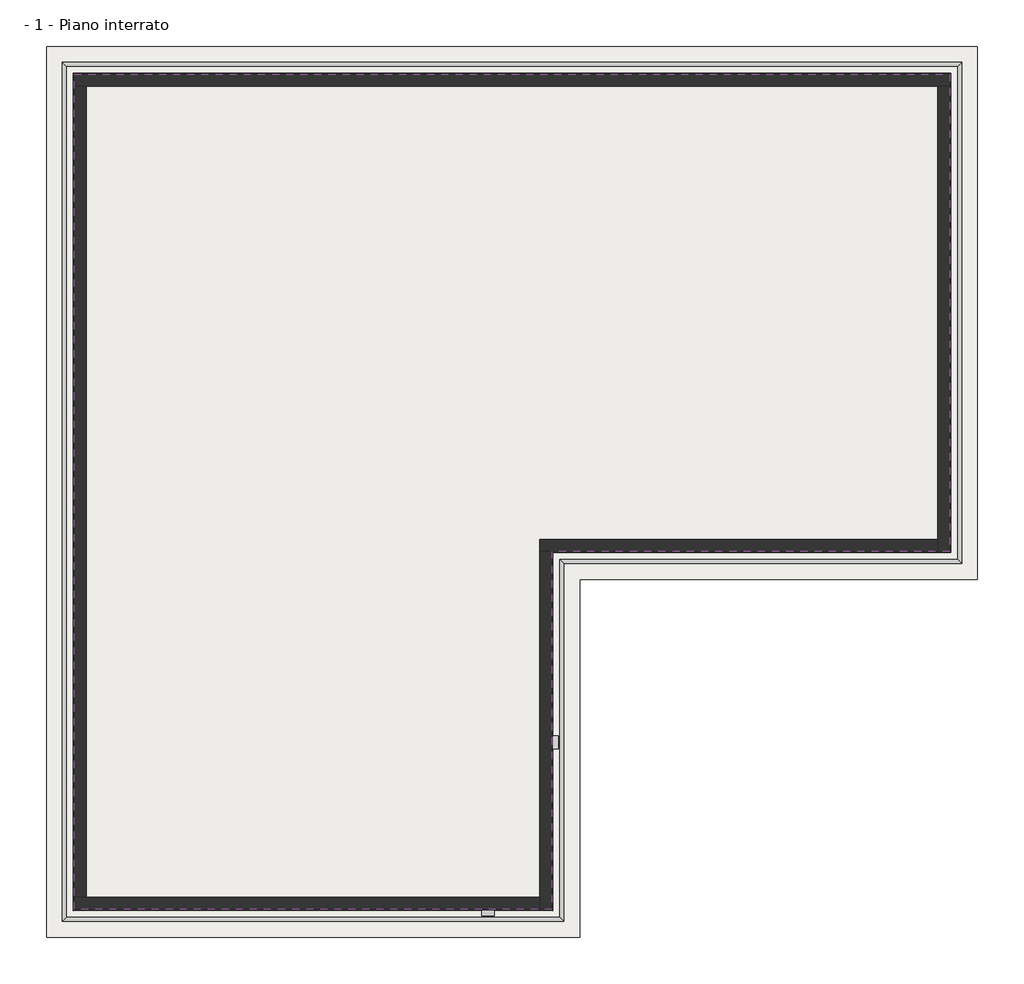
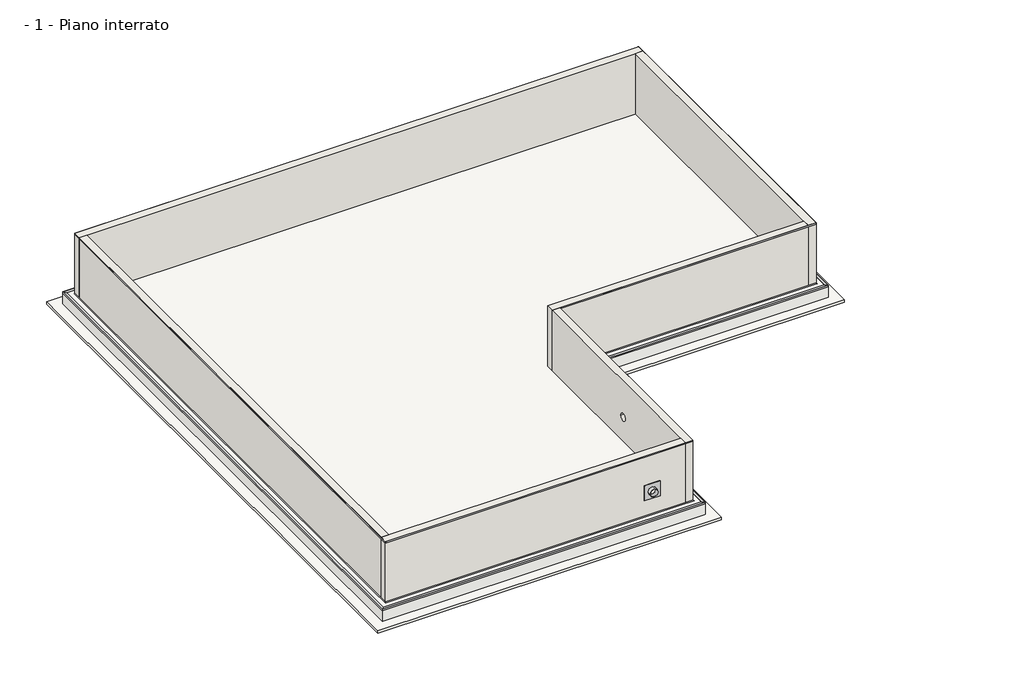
# One storey: 6 proxies, 6 walls, 2 slabs.
"""IFC4 building model written with IfcOpenShell, lengths in millimetres."""

from ifc_helpers import new_model, si_unit, frame, origin, place, context, project, spatial, polyline, circle_curve, outline, extrude, faceted_brep, transform, mapped, element, save
from ifc_brep_helpers import plane_surface, revolved_surface, advanced_brep
from components import generic_models_91e2fdae

model = new_model("IFC4")

# Units and contexts
model_context = context("Model", 3, world=origin())
ifc_project = project(units=[si_unit("LENGTHUNIT", "METRE", prefix="MILLI")], contexts=[model_context])

# Site, building, storey
site = spatial("IfcSite", under=ifc_project)
building = spatial("IfcBuilding", under=site)
storey = spatial("IfcBuildingStorey", under=building, Name="- 1 - Piano interrato", Elevation=-2500.0)

# Proxies
placement = place(None, origin())
element("IfcBuildingElementProxy", 1, Name="SPIDY 15 FILLET", ObjectType="SPIDY 15 FILLET", at=placement, inside=storey, context=model_context, shape_type="Brep", body=[
    faceted_brep([(4132.9665975, 5463.4665779, -2500.0), (4102.9665975, 5493.4665779, -2500.0), (4102.9665975, 5493.4665779, -2470.0), (4132.9665975, -3536.5334221, -2500.0), (4102.9665975, -3506.5334221, -2470.0), (4102.9665975, -3506.5334221, -2500.0)], [[[0, 1, 2]], [[3, 4, 5]], [[1, 0, 3, 5]], [[2, 1, 5, 4]], [[0, 2, 4, 3]]]),
    faceted_brep([(14132.9665975, 17523.4665779, -2500.0), (14102.9665975, 17493.4665779, -2500.0), (14102.9665975, 17493.4665779, -2470.0), (14132.9665975, 5463.4665779, -2500.0), (14102.9665975, 5493.4665779, -2470.0), (14102.9665975, 5493.4665779, -2500.0)], [[[0, 1, 2]], [[3, 4, 5]], [[1, 0, 3, 5]], [[2, 1, 5, 4]], [[0, 2, 4, 3]]]),
    faceted_brep([(14132.9665975, 5463.4665779, -2500.0), (14102.9665975, 5493.4665779, -2500.0), (14102.9665975, 5493.4665779, -2470.0), (4132.9665975, 5463.4665779, -2500.0), (4102.9665975, 5493.4665779, -2470.0), (4102.9665975, 5493.4665779, -2500.0)], [[[0, 1, 2]], [[3, 4, 5]], [[1, 0, 3, 5]], [[2, 1, 5, 4]], [[0, 2, 4, 3]]]),
    faceted_brep([(-7927.0334025, 17523.4665779, -2500.0), (-7897.0334025, 17493.4665779, -2500.0), (-7897.0334025, 17493.4665779, -2470.0), (14132.9665975, 17523.4665779, -2500.0), (14102.9665975, 17493.4665779, -2470.0), (14102.9665975, 17493.4665779, -2500.0)], [[[0, 1, 2]], [[3, 4, 5]], [[1, 0, 3, 5]], [[2, 1, 5, 4]], [[0, 2, 4, 3]]]),
    faceted_brep([(-7927.0334025, -3536.5334221, -2500.0), (-7897.0334025, -3506.5334221, -2500.0), (-7897.0334025, -3506.5334221, -2470.0), (-7927.0334025, 17523.4665779, -2500.0), (-7897.0334025, 17493.4665779, -2470.0), (-7897.0334025, 17493.4665779, -2500.0)], [[[0, 1, 2]], [[3, 4, 5]], [[1, 0, 3, 5]], [[2, 1, 5, 4]], [[0, 2, 4, 3]]]),
    faceted_brep([(4132.9665975, -3536.5334221, -2500.0), (4102.9665975, -3506.5334221, -2500.0), (4102.9665975, -3506.5334221, -2470.0), (-7927.0334025, -3536.5334221, -2500.0), (-7897.0334025, -3506.5334221, -2470.0), (-7897.0334025, -3506.5334221, -2500.0)], [[[0, 1, 2]], [[3, 4, 5]], [[1, 0, 3, 5]], [[2, 1, 5, 4]], [[0, 2, 4, 3]]]),
])
element("IfcBuildingElementProxy", 2, Name="AMPHIBIA VOLTECO PRESSURE LINE", ObjectType="AMPHIBIA VOLTECO PRESSURE LINE", at=placement, inside=storey, context=model_context, shape_type="SweptSolid", body=[
    extrude(outline(polyline([(-7897.0334025, -3506.5334221), (-7898.0334025, -3507.5334221), (-7898.0334025, 17494.4665779), (-7897.0334025, 17493.4665779), (-7897.0334025, -3506.5334221)])), frame((0.0, 0.0, -50.0), z_axis=(0.0, 0.0, 1.0), x_axis=(1.0, 0.0, 0.0)), (0.0, 0.0, 1.0), 50.0),
    extrude(outline(polyline([(4102.9665975, -3506.5334221), (4103.9665975, -3507.5334221), (-7898.0334025, -3507.5334221), (-7897.0334025, -3506.5334221), (4102.9665975, -3506.5334221)])), frame((0.0, 0.0, -50.0), z_axis=(0.0, 0.0, 1.0), x_axis=(1.0, 0.0, 0.0)), (0.0, 0.0, 1.0), 50.0),
    extrude(outline(polyline([(4102.9665975, 5493.4665779), (4103.9665975, 5492.4665779), (4103.9665975, -3507.5334221), (4102.9665975, -3506.5334221), (4102.9665975, 5493.4665779)])), frame((0.0, 0.0, -50.0), z_axis=(0.0, 0.0, 1.0), x_axis=(1.0, 0.0, 0.0)), (0.0, 0.0, 1.0), 50.0),
    extrude(outline(polyline([(14102.9665975, 5493.4665779), (14103.9665975, 5492.4665779), (4103.9665975, 5492.4665779), (4102.9665975, 5493.4665779), (14102.9665975, 5493.4665779)])), frame((0.0, 0.0, -50.0), z_axis=(0.0, 0.0, 1.0), x_axis=(1.0, 0.0, 0.0)), (0.0, 0.0, 1.0), 50.0),
    extrude(outline(polyline([(14102.9665975, 17493.4665779), (14103.9665975, 17494.4665779), (14103.9665975, 5492.4665779), (14102.9665975, 5493.4665779), (14102.9665975, 17493.4665779)])), frame((0.0, 0.0, -50.0), z_axis=(0.0, 0.0, 1.0), x_axis=(1.0, 0.0, 0.0)), (0.0, 0.0, 1.0), 50.0),
    extrude(outline(polyline([(-7897.0334025, 17493.4665779), (-7898.0334025, 17494.4665779), (14103.9665975, 17494.4665779), (14102.9665975, 17493.4665779), (-7897.0334025, 17493.4665779)])), frame((0.0, 0.0, -50.0), z_axis=(0.0, 0.0, 1.0), x_axis=(1.0, 0.0, 0.0)), (0.0, 0.0, 1.0), 50.0),
])
element("IfcBuildingElementProxy", 3, Name="AMPHIBIA CORNER 90° VOLTECO", ObjectType="AMPHIBIA CORNER 90° VOLTECO", at=placement, inside=storey, context=model_context, shape_type="Brep", body=[
    faceted_brep([(14403.9665975, 17794.4665779, -2550.0), (14402.9665975, 17793.4665779, -2550.0), (-8197.0334025, 17793.4665779, -2550.0), (-8198.0334025, 17794.4665779, -2550.0), (14403.9665975, 17794.4665779, -2499.0), (-8198.0334025, 17794.4665779, -2499.0), (14302.9665975, 17693.4665779, -2499.0), (-8097.0334025, 17693.4665779, -2499.0), (14302.9665975, 17693.4665779, -2500.0), (-8097.0334025, 17693.4665779, -2500.0), (14402.9665975, 17793.4665779, -2500.0), (-8197.0334025, 17793.4665779, -2500.0), (-8197.0334025, -3806.5334221, -2550.0), (-8198.0334025, -3807.5334221, -2550.0), (-8198.0334025, -3807.5334221, -2499.0), (-8097.0334025, -3706.5334221, -2499.0), (-8097.0334025, -3706.5334221, -2500.0), (-8197.0334025, -3806.5334221, -2500.0), (4402.9665975, -3806.5334221, -2550.0), (4403.9665975, -3807.5334221, -2550.0), (4403.9665975, -3807.5334221, -2499.0), (4302.9665975, -3706.5334221, -2499.0), (4302.9665975, -3706.5334221, -2500.0), (4402.9665975, -3806.5334221, -2500.0), (4402.9665975, 5193.4665779, -2550.0), (4403.9665975, 5192.4665779, -2550.0), (4403.9665975, 5192.4665779, -2499.0), (4302.9665975, 5293.4665779, -2499.0), (4302.9665975, 5293.4665779, -2500.0), (4402.9665975, 5193.4665779, -2500.0), (14402.9665975, 5193.4665779, -2550.0), (14403.9665975, 5192.4665779, -2550.0), (14403.9665975, 5192.4665779, -2499.0), (14302.9665975, 5293.4665779, -2499.0), (14302.9665975, 5293.4665779, -2500.0), (14402.9665975, 5193.4665779, -2500.0)], [[[0, 1, 2, 3]], [[4, 0, 3, 5]], [[6, 4, 5, 7]], [[8, 6, 7, 9]], [[10, 8, 9, 11]], [[1, 10, 11, 2]], [[3, 2, 12, 13]], [[5, 3, 13, 14]], [[7, 5, 14, 15]], [[9, 7, 15, 16]], [[11, 9, 16, 17]], [[2, 11, 17, 12]], [[13, 12, 18, 19]], [[14, 13, 19, 20]], [[15, 14, 20, 21]], [[16, 15, 21, 22]], [[17, 16, 22, 23]], [[12, 17, 23, 18]], [[19, 18, 24, 25]], [[20, 19, 25, 26]], [[21, 20, 26, 27]], [[22, 21, 27, 28]], [[23, 22, 28, 29]], [[18, 23, 29, 24]], [[25, 24, 30, 31]], [[26, 25, 31, 32]], [[27, 26, 32, 33]], [[28, 27, 33, 34]], [[29, 28, 34, 35]], [[24, 29, 35, 30]], [[1, 0, 31, 30]], [[0, 4, 32, 31]], [[4, 6, 33, 32]], [[6, 8, 34, 33]], [[8, 10, 35, 34]], [[10, 1, 30, 35]]]),
])
element("IfcBuildingElementProxy", 4, Name="WT 102 VOLTECO", ObjectType="WT 102 VOLTECO", at=placement, inside=storey, context=model_context, shape_type="SweptSolid", body=[
    extrude(outline(polyline([(-7737.0334025, 17333.4665779), (-7757.0334025, 17353.4665779), (13962.9665975, 17353.4665779), (13942.9665975, 17333.4665779), (-7737.0334025, 17333.4665779)])), frame((0.0, 0.0, -2500.0), z_axis=(0.0, 0.0, 1.0), x_axis=(1.0, 0.0, 0.0)), (0.0, 0.0, 1.0), 20.0),
    extrude(outline(polyline([(-7737.0334025, -3346.5334221), (-7757.0334025, -3366.5334221), (-7757.0334025, 17353.4665779), (-7737.0334025, 17333.4665779), (-7737.0334025, -3346.5334221)])), frame((0.0, 0.0, -2500.0), z_axis=(0.0, 0.0, 1.0), x_axis=(1.0, 0.0, 0.0)), (0.0, 0.0, 1.0), 20.0),
    extrude(outline(polyline([(3942.9665975, -3346.5334221), (3962.9665975, -3366.5334221), (-7757.0334025, -3366.5334221), (-7737.0334025, -3346.5334221), (3942.9665975, -3346.5334221)])), frame((0.0, 0.0, -2500.0), z_axis=(0.0, 0.0, 1.0), x_axis=(1.0, 0.0, 0.0)), (0.0, 0.0, 1.0), 20.0),
    extrude(outline(polyline([(3942.9665975, 5653.4665779), (3962.9665975, 5633.4665779), (3962.9665975, -3366.5334221), (3942.9665975, -3346.5334221), (3942.9665975, 5653.4665779)])), frame((0.0, 0.0, -2500.0), z_axis=(0.0, 0.0, 1.0), x_axis=(1.0, 0.0, 0.0)), (0.0, 0.0, 1.0), 20.0),
    extrude(outline(polyline([(13942.9665975, 5653.4665779), (13962.9665975, 5633.4665779), (3962.9665975, 5633.4665779), (3942.9665975, 5653.4665779), (13942.9665975, 5653.4665779)])), frame((0.0, 0.0, -2500.0), z_axis=(0.0, 0.0, 1.0), x_axis=(1.0, 0.0, 0.0)), (0.0, 0.0, 1.0), 20.0),
    extrude(outline(polyline([(13942.9665975, 17333.4665779), (13962.9665975, 17353.4665779), (13962.9665975, 5633.4665779), (13942.9665975, 5653.4665779), (13942.9665975, 17333.4665779)])), frame((0.0, 0.0, -2500.0), z_axis=(0.0, 0.0, 1.0), x_axis=(1.0, 0.0, 0.0)), (0.0, 0.0, 1.0), 20.0),
])
generic_models_shape = generic_models_91e2fdae(model_context)
element("IfcBuildingElementProxy", 5, Name="ENG-Volteco_Amphibia Pipe : ENG-Volteco_Amphibia Pipe", ObjectType="ENG-Volteco_Amphibia Pipe : ENG-Volteco_Amphibia Pipe", at=placement, inside=storey, context=model_context, shape_type="MappedRepresentation", body=[
    mapped(generic_models_shape, transform((4102.9665975, 693.4665779, -1500.3520841), x_axis=(0.0, 1.0, 0.0), y_axis=(0.0, 0.0, 1.0), z_axis=(1.0, 0.0, 0.0))),
])
element("IfcBuildingElementProxy", 6, Name="ENG-Volteco_Amphibia Pipe : ENG-Volteco_Amphibia Pipe", ObjectType="ENG-Volteco_Amphibia Pipe : ENG-Volteco_Amphibia Pipe", at=placement, inside=storey, context=model_context, shape_type="MappedRepresentation", body=[
    mapped(generic_models_shape, transform((2502.9665975, -3506.5334221, -1522.2019867), x_axis=(1.0, 0.0, 0.0), y_axis=(0.0, 0.0, 1.0), z_axis=(0.0, -1.0, 0.0))),
])

# Slabs
element("IfcSlab", 7, ObjectType="Blinding concrete - 10 cm", at=placement, inside=storey, context=model_context, shape_type="SweptSolid", body=[
    extrude(outline(polyline([(14802.9665975, 18193.4665779), (14802.9665975, 4793.4665779), (4802.9665975, 4793.4665779), (4802.9665975, -4206.5334221), (-8597.0334025, -4206.5334221), (-8597.0334025, 18193.4665779), (14802.9665975, 18193.4665779)])), frame((0.0, 0.0, -3100.0), z_axis=(0.0, 0.0, 1.0), x_axis=(1.0, 0.0, 0.0)), (0.0, 0.0, 1.0), 100.0),
])
element("IfcSlab", 8, ObjectType="Raft foundation - 50 cm", at=placement, inside=storey, context=model_context, shape_type="Brep", body=[
    faceted_brep([(14402.9665975, 17793.4665779, -3000.0), (14402.9665975, 5193.4665779, -3000.0), (4402.9665975, 5193.4665779, -3000.0), (4402.9665975, -3806.5334221, -3000.0), (-8197.0334025, -3806.5334221, -3000.0), (-8197.0334025, 17793.4665779, -3000.0), (14402.9665975, 17793.4665779, -2500.0), (-8197.0334025, 17793.4665779, -2500.0), (-8197.0334025, -3806.5334221, -2500.0), (4402.9665975, -3806.5334221, -2500.0), (4402.9665975, 5193.4665779, -2500.0), (14402.9665975, 5193.4665779, -2500.0), (14402.9665975, 17793.4665779, -2550.0), (14402.9665975, 5193.4665779, -2550.0), (4402.9665975, 5193.4665779, -2550.0), (4402.9665975, -3806.5334221, -2550.0), (-8197.0334025, -3806.5334221, -2550.0), (-8197.0334025, 17793.4665779, -2550.0)], [[[0, 1, 2, 3, 4, 5]], [[6, 7, 8, 9, 10, 11]], [[1, 0, 12, 6, 11, 13]], [[2, 1, 13, 11, 10, 14]], [[3, 2, 14, 10, 9, 15]], [[4, 3, 15, 9, 8, 16]], [[5, 4, 16, 8, 7, 17]], [[0, 5, 17, 7, 6, 12]]]),
])

# Walls
element("IfcWall", 9, ObjectType="Foundation Wall - 30 cm", at=placement, inside=storey, context=model_context, shape_type="Brep", body=[
    faceted_brep([(14102.9665975, 17193.4665779, 0.0), (13802.9665975, 17193.4665779, 0.0), (-7597.0334025, 17193.4665779, 0.0), (-7897.0334025, 17193.4665779, 0.0), (-7897.0334025, 17193.4665779, -50.0), (-7897.0334025, 17193.4665779, -2470.0), (-7897.0334025, 17193.4665779, -2500.0), (-7757.0334025, 17193.4665779, -2500.0), (-7757.0334025, 17193.4665779, -2480.0), (-7737.0334025, 17193.4665779, -2480.0), (-7737.0334025, 17193.4665779, -2500.0), (-7597.0334025, 17193.4665779, -2500.0), (13802.9665975, 17193.4665779, -2500.0), (13942.9665975, 17193.4665779, -2500.0), (13942.9665975, 17193.4665779, -2480.0), (13962.9665975, 17193.4665779, -2480.0), (13962.9665975, 17193.4665779, -2500.0), (14102.9665975, 17193.4665779, -2500.0), (14102.9665975, 17193.4665779, -2470.0), (14102.9665975, 17193.4665779, -50.0), (-7897.0334025, 17493.4665779, 0.0), (14102.9665975, 17493.4665779, 0.0), (14102.9665975, 17493.4665779, -50.0), (14102.9665975, 17493.4665779, -2470.0), (14102.9665975, 17493.4665779, -2500.0), (-7897.0334025, 17493.4665779, -2500.0), (-7897.0334025, 17493.4665779, -2470.0), (-7897.0334025, 17493.4665779, -50.0), (13962.9665975, 17353.4665779, -2500.0), (-7757.0334025, 17353.4665779, -2500.0), (-7737.0334025, 17333.4665779, -2500.0), (13942.9665975, 17333.4665779, -2500.0), (-7737.0334025, 17333.4665779, -2480.0), (13942.9665975, 17333.4665779, -2480.0), (-7757.0334025, 17353.4665779, -2480.0), (13962.9665975, 17353.4665779, -2480.0)], [[[0, 1, 2, 3, 4, 5, 6, 7, 8, 9, 10, 11, 12, 13, 14, 15, 16, 17, 18, 19]], [[20, 21, 22, 23, 24, 25, 26, 27]], [[3, 2, 1, 0, 21, 20]], [[21, 0, 19, 18, 17, 24, 23, 22]], [[3, 20, 27, 26, 25, 6, 5, 4]], [[6, 25, 24, 17, 16, 28, 29, 7]], [[13, 12, 11, 10, 30, 31]], [[32, 30, 10, 9]], [[30, 32, 33, 31]], [[31, 33, 14, 13]], [[33, 32, 9, 8, 34, 35, 15, 14]], [[29, 34, 8, 7]], [[35, 34, 29, 28]], [[35, 28, 16, 15]]]),
])
element("IfcWall", 10, ObjectType="Foundation Wall - 30 cm", at=placement, inside=storey, context=model_context, shape_type="Brep", body=[
    faceted_brep([(13802.9665975, 5493.4665779, 0.0), (13802.9665975, 5793.4665779, 0.0), (13802.9665975, 17193.4665779, 0.0), (13802.9665975, 17193.4665779, -2500.0), (13802.9665975, 5793.4665779, -2500.0), (13802.9665975, 5653.4665779, -2500.0), (13802.9665975, 5653.4665779, -2480.0), (13802.9665975, 5633.4665779, -2480.0), (13802.9665975, 5633.4665779, -2500.0), (13802.9665975, 5493.4665779, -2500.0), (13802.9665975, 5493.4665779, -2470.0), (13802.9665975, 5493.4665779, -50.0), (14102.9665975, 17193.4665779, 0.0), (14102.9665975, 5493.4665779, 0.0), (14102.9665975, 5493.4665779, -50.0), (14102.9665975, 5493.4665779, -2470.0), (14102.9665975, 5493.4665779, -2500.0), (14102.9665975, 17193.4665779, -2500.0), (14102.9665975, 17193.4665779, -2470.0), (14102.9665975, 17193.4665779, -50.0), (13962.9665975, 17193.4665779, -2500.0), (13962.9665975, 17193.4665779, -2480.0), (13942.9665975, 17193.4665779, -2480.0), (13942.9665975, 17193.4665779, -2500.0), (13962.9665975, 5633.4665779, -2500.0), (13942.9665975, 5653.4665779, -2500.0), (13942.9665975, 5653.4665779, -2480.0), (13962.9665975, 5633.4665779, -2480.0)], [[[0, 1, 2, 3, 4, 5, 6, 7, 8, 9, 10, 11]], [[12, 13, 14, 15, 16, 17, 18, 19]], [[2, 1, 0, 13, 12]], [[3, 2, 12, 19, 18, 17, 20, 21, 22, 23]], [[13, 0, 11, 10, 9, 16, 15, 14]], [[17, 16, 9, 8, 24, 20]], [[5, 4, 3, 23, 25]], [[26, 25, 23, 22]], [[25, 26, 6, 5]], [[6, 26, 22, 21, 27, 7]], [[24, 27, 21, 20]], [[27, 24, 8, 7]]]),
])
element("IfcWall", 11, ObjectType="Foundation Wall - 30 cm", at=placement, inside=storey, context=model_context, shape_type="Brep", body=[
    faceted_brep([(3802.9665975, 5793.4665779, 0.0), (13802.9665975, 5793.4665779, 0.0), (13802.9665975, 5793.4665779, -2500.0), (3802.9665975, 5793.4665779, -2500.0), (3802.9665975, 5493.4665779, 0.0), (3802.9665975, 5493.4665779, -2500.0), (3942.9665975, 5493.4665779, -2500.0), (3942.9665975, 5493.4665779, -2480.0), (3962.9665975, 5493.4665779, -2480.0), (3962.9665975, 5493.4665779, -2500.0), (4102.9665975, 5493.4665779, -2500.0), (13802.9665975, 5493.4665779, -2500.0), (13802.9665975, 5493.4665779, -2470.0), (13802.9665975, 5493.4665779, -50.0), (13802.9665975, 5493.4665779, 0.0), (4102.9665975, 5493.4665779, 0.0), (13802.9665975, 5633.4665779, -2500.0), (13802.9665975, 5633.4665779, -2480.0), (13802.9665975, 5653.4665779, -2480.0), (13802.9665975, 5653.4665779, -2500.0), (3942.9665975, 5653.4665779, -2500.0), (3962.9665975, 5633.4665779, -2500.0), (3942.9665975, 5653.4665779, -2480.0), (3962.9665975, 5633.4665779, -2480.0)], [[[0, 1, 2, 3]], [[4, 5, 6, 7, 8, 9, 10, 11, 12, 13, 14, 15]], [[1, 0, 4, 15, 14]], [[2, 1, 14, 13, 12, 11, 16, 17, 18, 19]], [[0, 3, 5, 4]], [[3, 2, 19, 20, 6, 5]], [[11, 10, 9, 21, 16]], [[22, 20, 19, 18]], [[20, 22, 7, 6]], [[7, 22, 18, 17, 23, 8]], [[21, 23, 17, 16]], [[23, 21, 9, 8]]]),
])
element("IfcWall", 12, ObjectType="Foundation Wall - 30 cm", at=placement, inside=storey, context=model_context, shape_type="AdvancedBrep", body=[
    advanced_brep(
    [(3802.9665975, -3506.5334221, 0.0), (3802.9665975, -3206.5334221, 0.0), (3802.9665975, 5493.4665779, 0.0), (3802.9665975, 5493.4665779, -2500.0), (3802.9665975, -3206.5334221, -2500.0), (3802.9665975, -3346.5334221, -2500.0), (3802.9665975, -3346.5334221, -2480.0), (3802.9665975, -3366.5334221, -2480.0), (3802.9665975, -3366.5334221, -2500.0), (3802.9665975, -3506.5334221, -2500.0), (3802.9665975, -3506.5334221, -2470.0), (3802.9665975, -3506.5334221, -50.0), (3802.9665975, 543.4665779, -1500.3520841), (3802.9665975, 843.4665779, -1500.3520841), (4102.9665975, 5493.4665779, 0.0), (4102.9665975, -3506.5334221, 0.0), (4102.9665975, -3506.5334221, -50.0), (4102.9665975, -3506.5334221, -2470.0), (4102.9665975, -3506.5334221, -2500.0), (4102.9665975, 5493.4665779, -2500.0), (4102.9665975, 5493.4665779, -2470.0), (4102.9665975, 5493.4665779, -50.0), (4102.9665975, 843.4665779, -1500.3520841), (4102.9665975, 543.4665779, -1500.3520841), (3962.9665975, 5493.4665779, -2500.0), (3962.9665975, 5493.4665779, -2480.0), (3942.9665975, 5493.4665779, -2480.0), (3942.9665975, 5493.4665779, -2500.0), (3962.9665975, -3366.5334221, -2500.0), (3942.9665975, -3346.5334221, -2500.0), (3942.9665975, -3346.5334221, -2480.0), (3962.9665975, -3366.5334221, -2480.0)],
    [
        (0, 1),
        (1, 2),
        (2, 3),
        (3, 4),
        (4, 5),
        (5, 6),
        (6, 7),
        (7, 8),
        (8, 9),
        (9, 10),
        (10, 11),
        (11, 0),
        (12, 13, circle_curve(frame((3802.9665975, 693.4665779, -1500.3520841), z_axis=(1.0, 0.0, 0.0), x_axis=(0.0, 1.0, 0.0)), 150.0)),
        (13, 12, circle_curve(frame((3802.9665975, 693.4665779, -1500.3520841), z_axis=(1.0, 0.0, 0.0), x_axis=(0.0, 1.0, 0.0)), 150.0)),
        (14, 15),
        (15, 16),
        (16, 17),
        (17, 18),
        (18, 19),
        (19, 20),
        (20, 21),
        (21, 14),
        (22, 23, circle_curve(frame((4102.9665975, 693.4665779, -1500.3520841), z_axis=(-1.0, 0.0, 0.0), x_axis=(0.0, 1.0, 0.0)), 150.0)),
        (23, 22, circle_curve(frame((4102.9665975, 693.4665779, -1500.3520841), z_axis=(-1.0, 0.0, 0.0), x_axis=(0.0, 1.0, 0.0)), 150.0)),
        (0, 15),
        (14, 2),
        (19, 24),
        (24, 25),
        (25, 26),
        (26, 27),
        (27, 3),
        (9, 18),
        (8, 28),
        (28, 24),
        (27, 29),
        (29, 5),
        (12, 23),
        (22, 13),
        (30, 29),
        (26, 30),
        (30, 6),
        (25, 31),
        (31, 7),
        (28, 31),
    ],
    [
        plane_surface(frame((3802.9665975, 5493.4665779, -2500.0), z_axis=(-1.0, 0.0, 0.0), x_axis=(0.0, -1.0, 0.0))),
        plane_surface(frame((4102.9665975, 5493.4665779, -2500.0), z_axis=(1.0, 0.0, 0.0), x_axis=(0.0, 1.0, 0.0))),
        plane_surface(frame((3802.9665975, -3356.5334221, 0.0), z_axis=(0.0, 0.0, 1.0), x_axis=(1.0, 0.0, 0.0))),
        plane_surface(frame((14102.9665975, 5493.4665779, -2500.0), z_axis=(0.0, 1.0, 0.0), x_axis=(1.0, 0.0, 0.0))),
        plane_surface(frame((4102.9665975, -3506.5334221, -2500.0), z_axis=(0.0, -1.0, 0.0), x_axis=(1.0, 0.0, 0.0))),
        plane_surface(frame((14402.9665975, 17493.4665779, -2500.0), z_axis=(0.0, 0.0, -1.0), x_axis=(0.0, 1.0, 0.0))),
        revolved_surface(polyline([(4102.9665975, 843.4665779, -1500.3520841), (3802.9665975, 843.4665779, -1500.3520841)]), (1510.6029094, 693.4665779, -1500.3520841), (1.0, 0.0, 0.0)),
        plane_surface(frame((3942.9665975, 5653.4665779, -2500.0), z_axis=(1.0, 0.0, 0.0), x_axis=(0.0, -1.0, 0.0))),
        plane_surface(frame((3942.9665975, -3346.5334221, -2500.0), z_axis=(0.0, -1.0, 0.0), x_axis=(-1.0, 0.0, 0.0))),
        plane_surface(frame((14102.9665975, 5653.4665779, -2480.0), z_axis=(0.0, 0.0, -1.0), x_axis=(-1.0, 0.0, 0.0))),
        plane_surface(frame((3962.9665975, 5633.4665779, -2480.0), z_axis=(-1.0, 0.0, 0.0), x_axis=(0.0, -1.0, 0.0))),
        plane_surface(frame((3962.9665975, -3366.5334221, -2480.0), z_axis=(0.0, 1.0, 0.0), x_axis=(-1.0, 0.0, 0.0))),
    ],
    [
        (0, [[1, 2, 3, 4, 5, 6, 7, 8, 9, 10, 11, 12], [13, 14]]),
        (1, [[15, 16, 17, 18, 19, 20, 21, 22], [23, 24]]),
        (2, [[-2, -1, 25, -15, 26]]),
        (3, [[-3, -26, -22, -21, -20, 27, 28, 29, 30, 31]]),
        (4, [[-25, -12, -11, -10, 32, -18, -17, -16]]),
        (5, [[-19, -32, -9, 33, 34, -27]]),
        (5, [[-5, -4, -31, 35, 36]]),
        (6, [[37, -23, 38, -13]]),
        (6, [[-37, -14, -38, -24]]),
        (7, [[39, -35, -30, 40]]),
        (8, [[-39, 41, -6, -36]]),
        (9, [[-41, -40, -29, 42, 43, -7]]),
        (10, [[44, -42, -28, -34]]),
        (11, [[-44, -33, -8, -43]]),
    ],
),
])
element("IfcWall", 13, ObjectType="Foundation Wall - 30 cm", at=placement, inside=storey, context=model_context, shape_type="AdvancedBrep", body=[
    advanced_brep(
    [(-7897.0334025, -3206.5334221, 0.0), (-7597.0334025, -3206.5334221, 0.0), (3802.9665975, -3206.5334221, 0.0), (3802.9665975, -3206.5334221, -2500.0), (-7597.0334025, -3206.5334221, -2500.0), (-7737.0334025, -3206.5334221, -2500.0), (-7737.0334025, -3206.5334221, -2480.0), (-7757.0334025, -3206.5334221, -2480.0), (-7757.0334025, -3206.5334221, -2500.0), (-7897.0334025, -3206.5334221, -2500.0), (-7897.0334025, -3206.5334221, -2470.0), (-7897.0334025, -3206.5334221, -50.0), (2352.9665975, -3206.5334221, -1522.2019867), (2652.9665975, -3206.5334221, -1522.2019867), (3802.9665975, -3506.5334221, 0.0), (-7897.0334025, -3506.5334221, 0.0), (-7897.0334025, -3506.5334221, -50.0), (-7897.0334025, -3506.5334221, -2470.0), (-7897.0334025, -3506.5334221, -2500.0), (3802.9665975, -3506.5334221, -2500.0), (3802.9665975, -3506.5334221, -2470.0), (3802.9665975, -3506.5334221, -50.0), (2652.9665975, -3506.5334221, -1522.2019867), (2352.9665975, -3506.5334221, -1522.2019867), (3802.9665975, -3366.5334221, -2500.0), (3802.9665975, -3366.5334221, -2480.0), (3802.9665975, -3346.5334221, -2480.0), (3802.9665975, -3346.5334221, -2500.0), (-7757.0334025, -3366.5334221, -2500.0), (-7737.0334025, -3346.5334221, -2500.0), (-7737.0334025, -3346.5334221, -2480.0), (-7757.0334025, -3366.5334221, -2480.0)],
    [
        (0, 1),
        (1, 2),
        (2, 3),
        (3, 4),
        (4, 5),
        (5, 6),
        (6, 7),
        (7, 8),
        (8, 9),
        (9, 10),
        (10, 11),
        (11, 0),
        (12, 13, circle_curve(frame((2502.9665975, -3206.5334221, -1522.2019867), z_axis=(0.0, -1.0, 0.0), x_axis=(1.0, 0.0, 0.0)), 150.0)),
        (13, 12, circle_curve(frame((2502.9665975, -3206.5334221, -1522.2019867), z_axis=(0.0, -1.0, 0.0), x_axis=(1.0, 0.0, 0.0)), 150.0)),
        (14, 15),
        (15, 16),
        (16, 17),
        (17, 18),
        (18, 19),
        (19, 20),
        (20, 21),
        (21, 14),
        (22, 23, circle_curve(frame((2502.9665975, -3506.5334221, -1522.2019867), z_axis=(0.0, 1.0, 0.0), x_axis=(1.0, 0.0, 0.0)), 150.0)),
        (23, 22, circle_curve(frame((2502.9665975, -3506.5334221, -1522.2019867), z_axis=(0.0, 1.0, 0.0), x_axis=(1.0, 0.0, 0.0)), 150.0)),
        (0, 15),
        (14, 2),
        (19, 24),
        (24, 25),
        (25, 26),
        (26, 27),
        (27, 3),
        (9, 18),
        (8, 28),
        (28, 24),
        (27, 29),
        (29, 5),
        (12, 23),
        (22, 13),
        (30, 29),
        (26, 30),
        (30, 6),
        (25, 31),
        (31, 7),
        (28, 31),
    ],
    [
        plane_surface(frame((4102.9665975, -3206.5334221, -2500.0), z_axis=(0.0, 1.0, 0.0), x_axis=(-1.0, 0.0, 0.0))),
        plane_surface(frame((4102.9665975, -3506.5334221, -2500.0), z_axis=(0.0, -1.0, 0.0), x_axis=(1.0, 0.0, 0.0))),
        plane_surface(frame((-7747.0334025, -3206.5334221, 0.0), z_axis=(0.0, 0.0, 1.0), x_axis=(0.0, -1.0, 0.0))),
        plane_surface(frame((3802.9665975, 5493.4665779, -2500.0), z_axis=(1.0, 0.0, 0.0), x_axis=(0.0, -1.0, 0.0))),
        plane_surface(frame((-7897.0334025, -3506.5334221, -2500.0), z_axis=(-1.0, 0.0, 0.0), x_axis=(0.0, -1.0, 0.0))),
        plane_surface(frame((14402.9665975, 17493.4665779, -2500.0), z_axis=(0.0, 0.0, -1.0), x_axis=(0.0, 1.0, 0.0))),
        revolved_surface(polyline([(2652.9665975, -3506.5334221, -1522.2019867), (2652.9665975, -3206.5334221, -1522.2019867)]), (2502.9665975, -914.169734, -1522.2019867), (0.0, -1.0, 0.0)),
        plane_surface(frame((3942.9665975, -3346.5334221, -2500.0), z_axis=(0.0, -1.0, 0.0), x_axis=(-1.0, 0.0, 0.0))),
        plane_surface(frame((-7737.0334025, -3346.5334221, -2500.0), z_axis=(-1.0, 0.0, 0.0), x_axis=(0.0, 1.0, 0.0))),
        plane_surface(frame((3942.9665975, 5493.4665779, -2480.0), z_axis=(0.0, 0.0, -1.0), x_axis=(0.0, -1.0, 0.0))),
        plane_surface(frame((3962.9665975, -3366.5334221, -2480.0), z_axis=(0.0, 1.0, 0.0), x_axis=(-1.0, 0.0, 0.0))),
        plane_surface(frame((-7757.0334025, -3366.5334221, -2480.0), z_axis=(1.0, 0.0, 0.0), x_axis=(0.0, 1.0, 0.0))),
    ],
    [
        (0, [[1, 2, 3, 4, 5, 6, 7, 8, 9, 10, 11, 12], [13, 14]]),
        (1, [[15, 16, 17, 18, 19, 20, 21, 22], [23, 24]]),
        (2, [[-2, -1, 25, -15, 26]]),
        (3, [[-3, -26, -22, -21, -20, 27, 28, 29, 30, 31]]),
        (4, [[-25, -12, -11, -10, 32, -18, -17, -16]]),
        (5, [[-19, -32, -9, 33, 34, -27]]),
        (5, [[-5, -4, -31, 35, 36]]),
        (6, [[37, -23, 38, -13]]),
        (6, [[-37, -14, -38, -24]]),
        (7, [[39, -35, -30, 40]]),
        (8, [[-39, 41, -6, -36]]),
        (9, [[-41, -40, -29, 42, 43, -7]]),
        (10, [[44, -42, -28, -34]]),
        (11, [[-44, -33, -8, -43]]),
    ],
),
])
element("IfcWall", 14, ObjectType="Foundation Wall - 30 cm", at=placement, inside=storey, context=model_context, shape_type="Brep", body=[
    faceted_brep([(-7597.0334025, 17193.4665779, 0.0), (-7597.0334025, -3206.5334221, 0.0), (-7597.0334025, -3206.5334221, -2500.0), (-7597.0334025, 17193.4665779, -2500.0), (-7897.0334025, -3206.5334221, 0.0), (-7897.0334025, 17193.4665779, 0.0), (-7897.0334025, 17193.4665779, -50.0), (-7897.0334025, 17193.4665779, -2470.0), (-7897.0334025, 17193.4665779, -2500.0), (-7897.0334025, -3206.5334221, -2500.0), (-7897.0334025, -3206.5334221, -2470.0), (-7897.0334025, -3206.5334221, -50.0), (-7737.0334025, 17193.4665779, -2500.0), (-7737.0334025, 17193.4665779, -2480.0), (-7757.0334025, 17193.4665779, -2480.0), (-7757.0334025, 17193.4665779, -2500.0), (-7757.0334025, -3206.5334221, -2500.0), (-7757.0334025, -3206.5334221, -2480.0), (-7737.0334025, -3206.5334221, -2480.0), (-7737.0334025, -3206.5334221, -2500.0)], [[[0, 1, 2, 3]], [[4, 5, 6, 7, 8, 9, 10, 11]], [[1, 0, 5, 4]], [[0, 3, 12, 13, 14, 15, 8, 7, 6, 5]], [[2, 1, 4, 11, 10, 9, 16, 17, 18, 19]], [[3, 2, 19, 12]], [[9, 8, 15, 16]], [[18, 13, 12, 19]], [[13, 18, 17, 14]], [[14, 17, 16, 15]]]),
])

save(model, "model.ifc")
